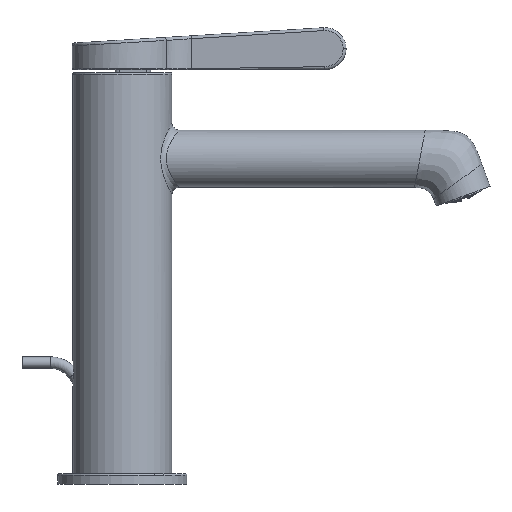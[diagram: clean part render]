
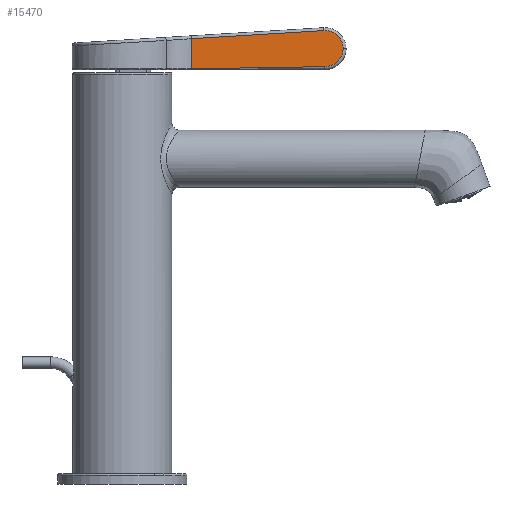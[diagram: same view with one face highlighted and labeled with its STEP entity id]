
A CAD part, front view. The second image highlights one B-rep face of the part: STEP entity #15470.
In plain terms, the highlighted planar face has unit normal (-0.019, -1, 0).
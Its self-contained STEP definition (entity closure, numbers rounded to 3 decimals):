
#147=CARTESIAN_POINT('',(59.17,19.034,-14.315));
#199=CARTESIAN_POINT('',(59.17,19.034,-3.83));
#201=DIRECTION('',(0.,0.,-1.));
#202=VECTOR('',#201,10.485);
#203=CARTESIAN_POINT('',(59.17,19.034,-3.83));
#204=LINE('',#203,#202);
#679=CARTESIAN_POINT('',(105.631,18.141,-13.578));
#680=CARTESIAN_POINT('',(104.928,18.155,-13.578));
#681=CARTESIAN_POINT('',(103.492,18.183,-13.58));
#682=CARTESIAN_POINT('',(101.287,18.225,-13.59));
#683=CARTESIAN_POINT('',(98.972,18.269,-13.608));
#684=CARTESIAN_POINT('',(96.521,18.316,-13.633));
#685=CARTESIAN_POINT('',(93.891,18.367,-13.667));
#686=CARTESIAN_POINT('',(91.014,18.422,-13.712));
#687=CARTESIAN_POINT('',(87.794,18.484,-13.768));
#688=CARTESIAN_POINT('',(84.14,18.554,-13.84));
#689=CARTESIAN_POINT('',(80.079,18.632,-13.925));
#690=CARTESIAN_POINT('',(75.844,18.713,-14.016));
#691=CARTESIAN_POINT('',(71.76,18.792,-14.102));
#692=CARTESIAN_POINT('',(68.069,18.863,-14.175));
#693=CARTESIAN_POINT('',(64.803,18.925,-14.234));
#694=CARTESIAN_POINT('',(61.887,18.981,-14.279));
#695=CARTESIAN_POINT('',(60.049,19.017,-14.304));
#696=CARTESIAN_POINT('',(59.17,19.034,-14.315));
#698=DIRECTION('',(0.998,-0.019,0.061));
#699=VECTOR('',#698,46.168);
#700=CARTESIAN_POINT('',(59.17,19.034,-3.83));
#701=LINE('',#700,#699);
#702=CARTESIAN_POINT('',(105.631,18.141,-7.351));
#703=DIRECTION('',(0.019,1.,0.));
#704=DIRECTION('',(-0.061,0.001,0.998));
#705=AXIS2_PLACEMENT_3D('',#702,#703,#704);
#707=CARTESIAN_POINT('',(111.981,18.02,-7.289));
#708=CARTESIAN_POINT('',(111.979,18.02,-7.403));
#709=CARTESIAN_POINT('',(111.971,18.02,-7.63));
#710=CARTESIAN_POINT('',(111.94,18.02,-7.971));
#711=CARTESIAN_POINT('',(111.891,18.021,-8.309));
#712=CARTESIAN_POINT('',(111.824,18.023,-8.645));
#713=CARTESIAN_POINT('',(111.739,18.024,-8.976));
#714=CARTESIAN_POINT('',(111.636,18.026,-9.302));
#715=CARTESIAN_POINT('',(111.515,18.029,-9.622));
#716=CARTESIAN_POINT('',(111.378,18.031,-9.935));
#717=CARTESIAN_POINT('',(111.224,18.034,-10.241));
#718=CARTESIAN_POINT('',(111.054,18.037,-10.537));
#719=CARTESIAN_POINT('',(110.868,18.041,-10.824));
#720=CARTESIAN_POINT('',(110.667,18.045,-11.101));
#721=CARTESIAN_POINT('',(110.451,18.049,-11.366));
#722=CARTESIAN_POINT('',(110.221,18.053,-11.62));
#723=CARTESIAN_POINT('',(109.978,18.058,-11.86));
#724=CARTESIAN_POINT('',(109.723,18.063,-12.088));
#725=CARTESIAN_POINT('',(109.455,18.068,-12.301));
#726=CARTESIAN_POINT('',(109.177,18.073,-12.499));
#727=CARTESIAN_POINT('',(108.888,18.079,-12.682));
#728=CARTESIAN_POINT('',(108.59,18.085,-12.85));
#729=CARTESIAN_POINT('',(108.283,18.091,-13.001));
#730=CARTESIAN_POINT('',(107.969,18.097,-13.135));
#731=CARTESIAN_POINT('',(107.647,18.103,-13.252));
#732=CARTESIAN_POINT('',(107.32,18.109,-13.352));
#733=CARTESIAN_POINT('',(106.988,18.115,-13.434));
#734=CARTESIAN_POINT('',(106.652,18.122,-13.498));
#735=CARTESIAN_POINT('',(106.314,18.128,-13.544));
#736=CARTESIAN_POINT('',(105.973,18.135,-13.572));
#737=CARTESIAN_POINT('',(105.745,18.139,-13.578));
#738=CARTESIAN_POINT('',(105.631,18.141,-13.578));
#10838=VERTEX_POINT('',#147);
#10842=VERTEX_POINT('',#199);
#10867=CARTESIAN_POINT('',(105.243,18.149,
-1.012));
#10868=CARTESIAN_POINT('',(111.981,18.02,
-7.289));
#10869=VERTEX_POINT('',#10867);
#10870=VERTEX_POINT('',#10868);
#10871=VERTEX_POINT('',#679);
#15455=CARTESIAN_POINT('',(52.18,19.168,
-14.578));
#15456=DIRECTION('',(-0.019,-1.,0.));
#15457=DIRECTION('',(1.,-0.019,0.));
#15458=AXIS2_PLACEMENT_3D('',#15455,#15456,#15457);
#15459=PLANE('',#15458);
#15461=ORIENTED_EDGE('',*,*,#15460,.T.);
#15462=ORIENTED_EDGE('',*,*,#13198,.F.);
#15464=ORIENTED_EDGE('',*,*,#15463,.T.);
#15465=ORIENTED_EDGE('',*,*,#15438,.T.);
#15467=ORIENTED_EDGE('',*,*,#15466,.T.);
#15468=EDGE_LOOP('',(#15461,#15462,#15464,#15465,#15467));
#15469=FACE_OUTER_BOUND('',#15468,.F.);
#697=B_SPLINE_CURVE_WITH_KNOTS('',3,(#679,#680,#681,#682,#683,#684,#685,#686,
#687,#688,#689,#690,#691,#692,#693,#694,#695,#696),.UNSPECIFIED.,.F.,.F.,(4,1,1,
1,1,1,1,1,1,1,1,1,1,1,1,4),(0.,0.045,0.093,
0.142,0.195,0.251,0.312,
0.381,0.459,0.548,0.643,
0.732,0.812,0.881,0.943,1.),
.UNSPECIFIED.);
#706=CIRCLE('',#705,6.351);
#739=B_SPLINE_CURVE_WITH_KNOTS('',3,(#707,#708,#709,#710,#711,#712,#713,#714,
#715,#716,#717,#718,#719,#720,#721,#722,#723,#724,#725,#726,#727,#728,#729,#730,
#731,#732,#733,#734,#735,#736,#737,#738),.UNSPECIFIED.,.F.,.F.,(4,1,1,1,1,1,1,1,
1,1,1,1,1,1,1,1,1,1,1,1,1,1,1,1,1,1,1,1,1,4),(0.,0.034,
0.069,0.103,0.138,0.172,
0.207,0.241,0.276,0.31,
0.345,0.379,0.414,0.448,
0.483,0.517,0.552,0.586,
0.621,0.655,0.69,0.724,
0.759,0.793,0.828,0.862,
0.897,0.931,0.966,1.),.UNSPECIFIED.);
#13198=EDGE_CURVE('',#10842,#10838,#204,.T.);
#15438=EDGE_CURVE('',#10869,#10870,#706,.T.);
#15460=EDGE_CURVE('',#10871,#10838,#697,.T.);
#15463=EDGE_CURVE('',#10842,#10869,#701,.T.);
#15466=EDGE_CURVE('',#10870,#10871,#739,.T.);
#15470=ADVANCED_FACE('',(#15469),#15459,.T.);
